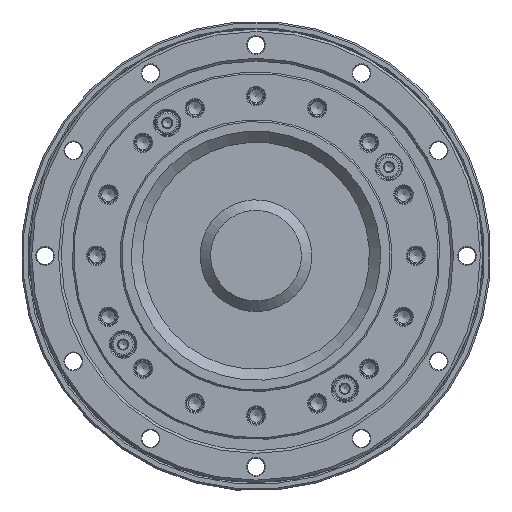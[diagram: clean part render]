
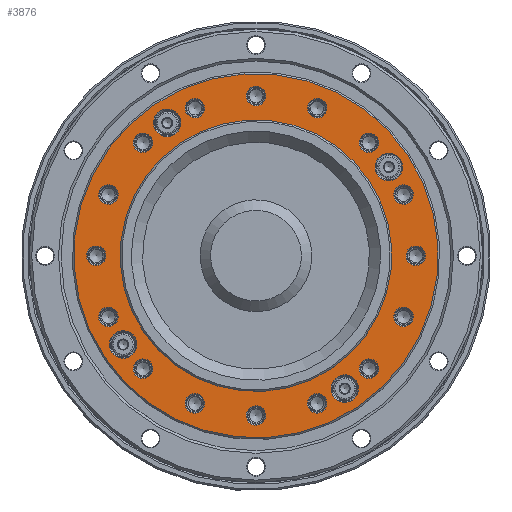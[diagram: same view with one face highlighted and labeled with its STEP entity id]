
A CAD part, top view. The second image highlights one B-rep face of the part: STEP entity #3876.
In plain terms, the highlighted planar face has unit normal (0, 0, 1).
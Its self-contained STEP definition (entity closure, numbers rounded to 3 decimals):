
#3876=ADVANCED_FACE('',(#5651,#5652,#5653,#5654,#5655,#5656,#5657,#5658,
#5659,#5660,#5661,#5662,#5663,#5664,#5665,#5666,#5667,#5668,#5669,#5670,
#5671,#5672),#4287,.T.);
#4287=PLANE('',#16584);
#5651=FACE_BOUND('',#7591,.T.);
#5652=FACE_BOUND('',#7592,.T.);
#5653=FACE_BOUND('',#7593,.T.);
#5654=FACE_BOUND('',#7594,.T.);
#5655=FACE_BOUND('',#7595,.T.);
#5656=FACE_BOUND('',#7596,.T.);
#5657=FACE_BOUND('',#7597,.T.);
#5658=FACE_BOUND('',#7598,.T.);
#5659=FACE_BOUND('',#7599,.T.);
#5660=FACE_BOUND('',#7600,.T.);
#5661=FACE_BOUND('',#7601,.T.);
#5662=FACE_BOUND('',#7602,.T.);
#5663=FACE_BOUND('',#7603,.T.);
#5664=FACE_BOUND('',#7604,.T.);
#5665=FACE_BOUND('',#7605,.T.);
#5666=FACE_BOUND('',#7606,.T.);
#5667=FACE_BOUND('',#7607,.T.);
#5668=FACE_BOUND('',#7608,.T.);
#5669=FACE_BOUND('',#7609,.T.);
#5670=FACE_BOUND('',#7610,.T.);
#5671=FACE_BOUND('',#7611,.T.);
#5672=FACE_BOUND('',#7612,.T.);
#7591=EDGE_LOOP('',(#10461));
#7592=EDGE_LOOP('',(#10462));
#7593=EDGE_LOOP('',(#10463));
#7594=EDGE_LOOP('',(#10464));
#7595=EDGE_LOOP('',(#10465));
#7596=EDGE_LOOP('',(#10466));
#7597=EDGE_LOOP('',(#10467));
#7598=EDGE_LOOP('',(#10468));
#7599=EDGE_LOOP('',(#10469));
#7600=EDGE_LOOP('',(#10470));
#7601=EDGE_LOOP('',(#10471));
#7602=EDGE_LOOP('',(#10472));
#7603=EDGE_LOOP('',(#10473));
#7604=EDGE_LOOP('',(#10474));
#7605=EDGE_LOOP('',(#10475));
#7606=EDGE_LOOP('',(#10476));
#7607=EDGE_LOOP('',(#10477));
#7608=EDGE_LOOP('',(#10478));
#7609=EDGE_LOOP('',(#10479));
#7610=EDGE_LOOP('',(#10480));
#7611=EDGE_LOOP('',(#10481));
#7612=EDGE_LOOP('',(#10482));
#10461=ORIENTED_EDGE('',*,*,#13476,.T.);
#10462=ORIENTED_EDGE('',*,*,#13477,.T.);
#10463=ORIENTED_EDGE('',*,*,#13478,.T.);
#10464=ORIENTED_EDGE('',*,*,#13479,.T.);
#10465=ORIENTED_EDGE('',*,*,#13480,.T.);
#10466=ORIENTED_EDGE('',*,*,#13481,.T.);
#10467=ORIENTED_EDGE('',*,*,#13482,.T.);
#10468=ORIENTED_EDGE('',*,*,#13483,.T.);
#10469=ORIENTED_EDGE('',*,*,#13484,.T.);
#10470=ORIENTED_EDGE('',*,*,#13485,.T.);
#10471=ORIENTED_EDGE('',*,*,#13486,.T.);
#10472=ORIENTED_EDGE('',*,*,#13487,.T.);
#10473=ORIENTED_EDGE('',*,*,#13488,.T.);
#10474=ORIENTED_EDGE('',*,*,#13489,.T.);
#10475=ORIENTED_EDGE('',*,*,#13490,.T.);
#10476=ORIENTED_EDGE('',*,*,#13491,.T.);
#10477=ORIENTED_EDGE('',*,*,#13492,.T.);
#10478=ORIENTED_EDGE('',*,*,#13493,.T.);
#10479=ORIENTED_EDGE('',*,*,#13494,.T.);
#10480=ORIENTED_EDGE('',*,*,#13495,.T.);
#10481=ORIENTED_EDGE('',*,*,#13496,.T.);
#10482=ORIENTED_EDGE('',*,*,#13475,.F.);
#12009=VERTEX_POINT('',#26384);
#12010=VERTEX_POINT('',#26387);
#12011=VERTEX_POINT('',#26389);
#12012=VERTEX_POINT('',#26391);
#12013=VERTEX_POINT('',#26393);
#12014=VERTEX_POINT('',#26395);
#12015=VERTEX_POINT('',#26397);
#12016=VERTEX_POINT('',#26399);
#12017=VERTEX_POINT('',#26401);
#12018=VERTEX_POINT('',#26403);
#12019=VERTEX_POINT('',#26405);
#12020=VERTEX_POINT('',#26407);
#12021=VERTEX_POINT('',#26409);
#12022=VERTEX_POINT('',#26411);
#12023=VERTEX_POINT('',#26413);
#12024=VERTEX_POINT('',#26415);
#12025=VERTEX_POINT('',#26417);
#12026=VERTEX_POINT('',#26419);
#12027=VERTEX_POINT('',#26421);
#12028=VERTEX_POINT('',#26423);
#12029=VERTEX_POINT('',#26425);
#12030=VERTEX_POINT('',#26427);
#13475=EDGE_CURVE('',#12009,#12009,#14626,.T.);
#13476=EDGE_CURVE('',#12010,#12010,#14627,.T.);
#13477=EDGE_CURVE('',#12011,#12011,#14628,.T.);
#13478=EDGE_CURVE('',#12012,#12012,#14629,.T.);
#13479=EDGE_CURVE('',#12013,#12013,#14630,.T.);
#13480=EDGE_CURVE('',#12014,#12014,#14631,.T.);
#13481=EDGE_CURVE('',#12015,#12015,#14632,.T.);
#13482=EDGE_CURVE('',#12016,#12016,#14633,.T.);
#13483=EDGE_CURVE('',#12017,#12017,#14634,.T.);
#13484=EDGE_CURVE('',#12018,#12018,#14635,.T.);
#13485=EDGE_CURVE('',#12019,#12019,#14636,.T.);
#13486=EDGE_CURVE('',#12020,#12020,#14637,.T.);
#13487=EDGE_CURVE('',#12021,#12021,#14638,.T.);
#13488=EDGE_CURVE('',#12022,#12022,#14639,.T.);
#13489=EDGE_CURVE('',#12023,#12023,#14640,.T.);
#13490=EDGE_CURVE('',#12024,#12024,#14641,.T.);
#13491=EDGE_CURVE('',#12025,#12025,#14642,.T.);
#13492=EDGE_CURVE('',#12026,#12026,#14643,.T.);
#13493=EDGE_CURVE('',#12027,#12027,#14644,.T.);
#13494=EDGE_CURVE('',#12028,#12028,#14645,.T.);
#13495=EDGE_CURVE('',#12029,#12029,#14646,.T.);
#13496=EDGE_CURVE('',#12030,#12030,#14647,.T.);
#14626=CIRCLE('',#16561,57.);
#14627=CIRCLE('',#16563,3.05);
#14628=CIRCLE('',#16564,3.05);
#14629=CIRCLE('',#16565,3.05);
#14630=CIRCLE('',#16566,3.05);
#14631=CIRCLE('',#16567,3.05);
#14632=CIRCLE('',#16568,3.05);
#14633=CIRCLE('',#16569,3.05);
#14634=CIRCLE('',#16570,3.05);
#14635=CIRCLE('',#16571,3.05);
#14636=CIRCLE('',#16572,3.05);
#14637=CIRCLE('',#16573,3.05);
#14638=CIRCLE('',#16574,3.05);
#14639=CIRCLE('',#16575,3.05);
#14640=CIRCLE('',#16576,3.05);
#14641=CIRCLE('',#16577,3.05);
#14642=CIRCLE('',#16578,3.05);
#14643=CIRCLE('',#16579,4.3);
#14644=CIRCLE('',#16580,4.3);
#14645=CIRCLE('',#16581,4.3);
#14646=CIRCLE('',#16582,4.3);
#14647=CIRCLE('',#16583,42.5);
#16561=AXIS2_PLACEMENT_3D('',#26383,#20675,#20676);
#16563=AXIS2_PLACEMENT_3D('',#26386,#20679,#20680);
#16564=AXIS2_PLACEMENT_3D('',#26388,#20681,#20682);
#16565=AXIS2_PLACEMENT_3D('',#26390,#20683,#20684);
#16566=AXIS2_PLACEMENT_3D('',#26392,#20685,#20686);
#16567=AXIS2_PLACEMENT_3D('',#26394,#20687,#20688);
#16568=AXIS2_PLACEMENT_3D('',#26396,#20689,#20690);
#16569=AXIS2_PLACEMENT_3D('',#26398,#20691,#20692);
#16570=AXIS2_PLACEMENT_3D('',#26400,#20693,#20694);
#16571=AXIS2_PLACEMENT_3D('',#26402,#20695,#20696);
#16572=AXIS2_PLACEMENT_3D('',#26404,#20697,#20698);
#16573=AXIS2_PLACEMENT_3D('',#26406,#20699,#20700);
#16574=AXIS2_PLACEMENT_3D('',#26408,#20701,#20702);
#16575=AXIS2_PLACEMENT_3D('',#26410,#20703,#20704);
#16576=AXIS2_PLACEMENT_3D('',#26412,#20705,#20706);
#16577=AXIS2_PLACEMENT_3D('',#26414,#20707,#20708);
#16578=AXIS2_PLACEMENT_3D('',#26416,#20709,#20710);
#16579=AXIS2_PLACEMENT_3D('',#26418,#20711,#20712);
#16580=AXIS2_PLACEMENT_3D('',#26420,#20713,#20714);
#16581=AXIS2_PLACEMENT_3D('',#26422,#20715,#20716);
#16582=AXIS2_PLACEMENT_3D('',#26424,#20717,#20718);
#16583=AXIS2_PLACEMENT_3D('',#26426,#20719,#20720);
#16584=AXIS2_PLACEMENT_3D('',#26428,#20721,#20722);
#20675=DIRECTION('',(0.,0.,-1.));
#20676=DIRECTION('',(-1.,0.,0.));
#20679=DIRECTION('',(0.,0.,-1.));
#20680=DIRECTION('',(1.,0.,0.));
#20681=DIRECTION('',(0.,0.,-1.));
#20682=DIRECTION('',(1.,0.,0.));
#20683=DIRECTION('',(0.,0.,-1.));
#20684=DIRECTION('',(1.,0.,0.));
#20685=DIRECTION('',(0.,0.,-1.));
#20686=DIRECTION('',(1.,0.,0.));
#20687=DIRECTION('',(0.,0.,-1.));
#20688=DIRECTION('',(1.,0.,0.));
#20689=DIRECTION('',(0.,0.,-1.));
#20690=DIRECTION('',(1.,0.,0.));
#20691=DIRECTION('',(0.,0.,-1.));
#20692=DIRECTION('',(1.,0.,0.));
#20693=DIRECTION('',(0.,0.,-1.));
#20694=DIRECTION('',(1.,0.,0.));
#20695=DIRECTION('',(0.,0.,-1.));
#20696=DIRECTION('',(1.,0.,0.));
#20697=DIRECTION('',(0.,0.,-1.));
#20698=DIRECTION('',(1.,0.,0.));
#20699=DIRECTION('',(0.,0.,-1.));
#20700=DIRECTION('',(1.,0.,0.));
#20701=DIRECTION('',(0.,0.,-1.));
#20702=DIRECTION('',(1.,0.,0.));
#20703=DIRECTION('',(0.,0.,-1.));
#20704=DIRECTION('',(1.,0.,0.));
#20705=DIRECTION('',(0.,0.,-1.));
#20706=DIRECTION('',(1.,0.,0.));
#20707=DIRECTION('',(0.,0.,-1.));
#20708=DIRECTION('',(1.,0.,0.));
#20709=DIRECTION('',(0.,0.,-1.));
#20710=DIRECTION('',(1.,0.,0.));
#20711=DIRECTION('',(0.,0.,-1.));
#20712=DIRECTION('',(1.,0.,0.));
#20713=DIRECTION('',(0.,0.,-1.));
#20714=DIRECTION('',(1.,0.,0.));
#20715=DIRECTION('',(0.,0.,-1.));
#20716=DIRECTION('',(1.,0.,0.));
#20717=DIRECTION('',(0.,0.,-1.));
#20718=DIRECTION('',(1.,0.,0.));
#20719=DIRECTION('',(0.,0.,-1.));
#20720=DIRECTION('',(-1.,0.,0.));
#20721=DIRECTION('',(0.,0.,1.));
#20722=DIRECTION('',(1.,0.,0.));
#26383=CARTESIAN_POINT('',(0.,0.,9.5));
#26384=CARTESIAN_POINT('',(-57.,0.,9.5));
#26386=CARTESIAN_POINT('',(27.779,41.573,9.5));
#26387=CARTESIAN_POINT('',(30.829,41.573,9.5));
#26388=CARTESIAN_POINT('',(-41.573,-27.779,9.5));
#26389=CARTESIAN_POINT('',(-38.523,-27.779,9.5));
#26390=CARTESIAN_POINT('',(-27.779,-41.573,9.5));
#26391=CARTESIAN_POINT('',(-24.729,-41.573,9.5));
#26392=CARTESIAN_POINT('',(-27.779,41.573,9.5));
#26393=CARTESIAN_POINT('',(-24.729,41.573,9.5));
#26394=CARTESIAN_POINT('',(-9.755,-49.039,9.5));
#26395=CARTESIAN_POINT('',(-6.705,-49.039,9.5));
#26396=CARTESIAN_POINT('',(-9.755,49.039,9.5));
#26397=CARTESIAN_POINT('',(-6.705,49.039,9.5));
#26398=CARTESIAN_POINT('',(9.755,49.039,9.5));
#26399=CARTESIAN_POINT('',(12.805,49.039,9.5));
#26400=CARTESIAN_POINT('',(-49.039,-9.755,9.5));
#26401=CARTESIAN_POINT('',(-45.989,-9.755,9.5));
#26402=CARTESIAN_POINT('',(-49.039,9.755,9.5));
#26403=CARTESIAN_POINT('',(-45.989,9.755,9.5));
#26404=CARTESIAN_POINT('',(-41.573,27.779,9.5));
#26405=CARTESIAN_POINT('',(-38.523,27.779,9.5));
#26406=CARTESIAN_POINT('',(41.573,27.779,9.5));
#26407=CARTESIAN_POINT('',(44.623,27.779,9.5));
#26408=CARTESIAN_POINT('',(49.039,9.755,9.5));
#26409=CARTESIAN_POINT('',(52.089,9.755,9.5));
#26410=CARTESIAN_POINT('',(49.039,-9.755,9.5));
#26411=CARTESIAN_POINT('',(52.089,-9.755,9.5));
#26412=CARTESIAN_POINT('',(41.573,-27.779,9.5));
#26413=CARTESIAN_POINT('',(44.623,-27.779,9.5));
#26414=CARTESIAN_POINT('',(27.779,-41.573,9.5));
#26415=CARTESIAN_POINT('',(30.829,-41.573,9.5));
#26416=CARTESIAN_POINT('',(9.755,-49.039,9.5));
#26417=CARTESIAN_POINT('',(12.805,-49.039,9.5));
#26418=CARTESIAN_POINT('',(0.,-50.,9.5));
#26419=CARTESIAN_POINT('',(4.3,-50.,9.5));
#26420=CARTESIAN_POINT('',(-50.,0.,9.5));
#26421=CARTESIAN_POINT('',(-45.7,0.,9.5));
#26422=CARTESIAN_POINT('',(0.,50.,9.5));
#26423=CARTESIAN_POINT('',(4.3,50.,9.5));
#26424=CARTESIAN_POINT('',(50.,0.,9.5));
#26425=CARTESIAN_POINT('',(54.3,0.,9.5));
#26426=CARTESIAN_POINT('',(0.,0.,9.5));
#26427=CARTESIAN_POINT('',(-42.5,0.,9.5));
#26428=CARTESIAN_POINT('',(57.,0.,9.5));
